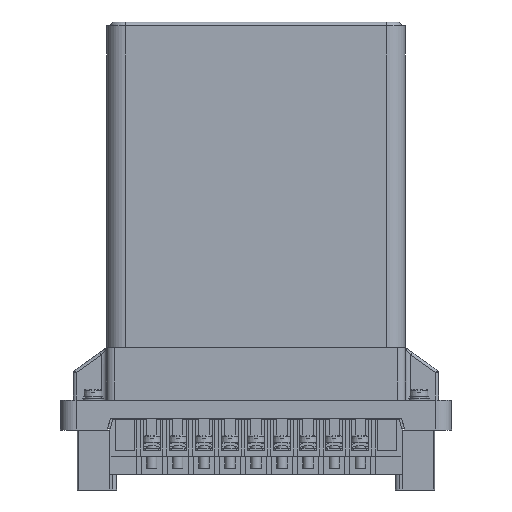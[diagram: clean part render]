
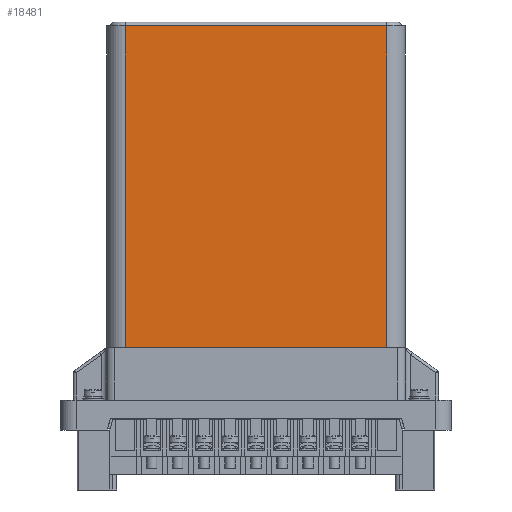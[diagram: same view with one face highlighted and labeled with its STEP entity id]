
A CAD part, left-side view. The second image highlights one B-rep face of the part: STEP entity #18481.
In plain terms, the highlighted planar face has unit normal (-1, 0, 0).
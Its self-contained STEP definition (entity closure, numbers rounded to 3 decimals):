
#18481=ADVANCED_FACE('',(#74511),#74513,.T.);
#74511=FACE_BOUND('',#74512,.T.);
#74512=EDGE_LOOP('',(#120245,#120246,#120247,#120248));
#74513=PLANE('',#74514);
#74514=AXIS2_PLACEMENT_3D('',#74515,#74516,#74517);
#74515=CARTESIAN_POINT('',(-32.15,50.15,31.5));
#74516=DIRECTION('',(-1.,0.,0.));
#74517=DIRECTION('',(0.,-1.,0.));
#120245=ORIENTED_EDGE('',*,*,#148137,.T.);
#120246=ORIENTED_EDGE('',*,*,#149255,.T.);
#120247=ORIENTED_EDGE('',*,*,#149256,.F.);
#120248=ORIENTED_EDGE('',*,*,#149257,.F.);
#148137=EDGE_CURVE('',#167950,#167948,#167951,.T.);
#149255=EDGE_CURVE('',#167948,#170031,#170033,.T.);
#149256=EDGE_CURVE('',#170034,#170031,#170035,.T.);
#149257=EDGE_CURVE('',#167950,#170034,#170036,.T.);
#167948=VERTEX_POINT('',#205654);
#167950=VERTEX_POINT('',#205659);
#167951=LINE('',#205660,#205661);
#170031=VERTEX_POINT('',#210303);
#170033=LINE('',#210308,#210309);
#170034=VERTEX_POINT('',#210311);
#170035=LINE('',#210312,#210313);
#170036=LINE('',#210315,#210316);
#205654=CARTESIAN_POINT('',(-32.15,-50.15,31.5));
#205659=CARTESIAN_POINT('',(-32.15,50.15,31.5));
#205660=CARTESIAN_POINT('',(-32.15,50.15,31.5));
#205661=VECTOR('',#205662,1.);
#205662=DIRECTION('',(0.,-1.,0.));
#210303=CARTESIAN_POINT('',(-32.15,-50.15,155.));
#210308=CARTESIAN_POINT('',(-32.15,-50.15,31.5));
#210309=VECTOR('',#210310,1.);
#210310=DIRECTION('',(0.,0.,1.));
#210311=CARTESIAN_POINT('',(-32.15,50.15,155.));
#210312=CARTESIAN_POINT('',(-32.15,50.15,155.));
#210313=VECTOR('',#210314,1.);
#210314=DIRECTION('',(0.,-1.,0.));
#210315=CARTESIAN_POINT('',(-32.15,50.15,31.5));
#210316=VECTOR('',#210317,1.);
#210317=DIRECTION('',(0.,0.,1.));
